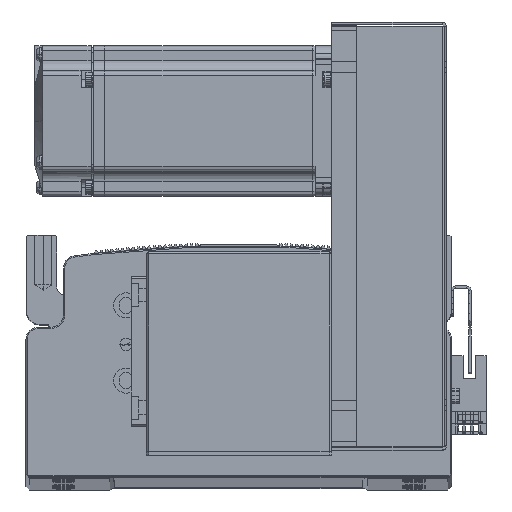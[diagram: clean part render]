
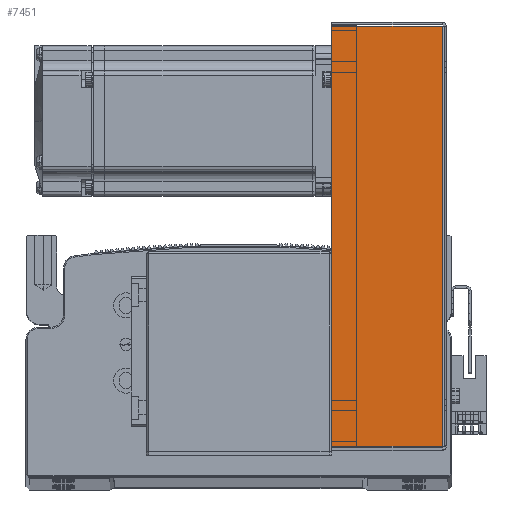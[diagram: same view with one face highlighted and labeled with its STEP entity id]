
A CAD part, top view. The second image highlights one B-rep face of the part: STEP entity #7451.
In plain terms, the highlighted planar face has unit normal (0, 0, 1).
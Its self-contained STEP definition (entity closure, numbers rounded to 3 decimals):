
#2356 = DIRECTION ( 'NONE',  ( 0., 0., -1. ) ) ;
#2371 = CARTESIAN_POINT ( 'NONE',  ( 0., 0., 40.5 ) ) ;
#2380 = DIRECTION ( 'NONE',  ( -1., 0., 0. ) ) ;
#2384 = PLANE ( 'NONE',  #85817 ) ;
#3211 = DIRECTION ( 'NONE',  ( -1., 0., 0. ) ) ;
#3226 = CARTESIAN_POINT ( 'NONE',  ( -84.5, 45., 40.5 ) ) ;
#3255 = DIRECTION ( 'NONE',  ( 0., 1., 0. ) ) ;
#3269 = CARTESIAN_POINT ( 'NONE',  ( 83.793, 0., 40.5 ) ) ;
#3402 = DIRECTION ( 'NONE',  ( -1., 0., 0. ) ) ;
#3440 = CARTESIAN_POINT ( 'NONE',  ( 0., 0.737, 40.5 ) ) ;
#3582 = DIRECTION ( 'NONE',  ( 0., 1., 0. ) ) ;
#3614 = CARTESIAN_POINT ( 'NONE',  ( -83.793, 0., 40.5 ) ) ;
#7451 = ADVANCED_FACE ( 'NONE', ( #27927 ), #2384, .F. ) ;
#11719 = VECTOR ( 'NONE', #3255, 1000. ) ;
#11728 = LINE ( 'NONE', #3269, #11719 ) ;
#11766 = LINE ( 'NONE', #3440, #11772 ) ;
#11772 = VECTOR ( 'NONE', #3402, 1000. ) ;
#11808 = LINE ( 'NONE', #3226, #11837 ) ;
#11837 = VECTOR ( 'NONE', #3211, 1000. ) ;
#11948 = LINE ( 'NONE', #3614, #11986 ) ;
#11986 = VECTOR ( 'NONE', #3582, 1000. ) ;
#21999 = VERTEX_POINT ( 'NONE', #73388 ) ;
#22030 = VERTEX_POINT ( 'NONE', #73424 ) ;
#22081 = VERTEX_POINT ( 'NONE', #73471 ) ;
#22094 = VERTEX_POINT ( 'NONE', #73495 ) ;
#27927 = FACE_OUTER_BOUND ( 'NONE', #53422, .T. ) ;
#33915 = ORIENTED_EDGE ( 'NONE', *, *, #70362, .F. ) ;
#34016 = ORIENTED_EDGE ( 'NONE', *, *, #70270, .T. ) ;
#34046 = ORIENTED_EDGE ( 'NONE', *, *, #70469, .F. ) ;
#34084 = ORIENTED_EDGE ( 'NONE', *, *, #70280, .T. ) ;
#53422 = EDGE_LOOP ( 'NONE', ( #33915, #34016, #34084, #34046 ) ) ;
#70270 = EDGE_CURVE ( 'NONE', #22081, #21999, #11728, .T. ) ;
#70280 = EDGE_CURVE ( 'NONE', #21999, #22030, #11808, .T. ) ;
#70362 = EDGE_CURVE ( 'NONE', #22081, #22094, #11766, .T. ) ;
#70469 = EDGE_CURVE ( 'NONE', #22094, #22030, #11948, .T. ) ;
#73388 = CARTESIAN_POINT ( 'NONE',  ( 83.793, 45., 40.5 ) ) ;
#73424 = CARTESIAN_POINT ( 'NONE',  ( -83.793, 45., 40.5 ) ) ;
#73471 = CARTESIAN_POINT ( 'NONE',  ( 83.793, 0.737, 40.5 ) ) ;
#73495 = CARTESIAN_POINT ( 'NONE',  ( -83.793, 0.737, 40.5 ) ) ;
#85817 = AXIS2_PLACEMENT_3D ( 'NONE', #2371, #2356, #2380 ) ;
